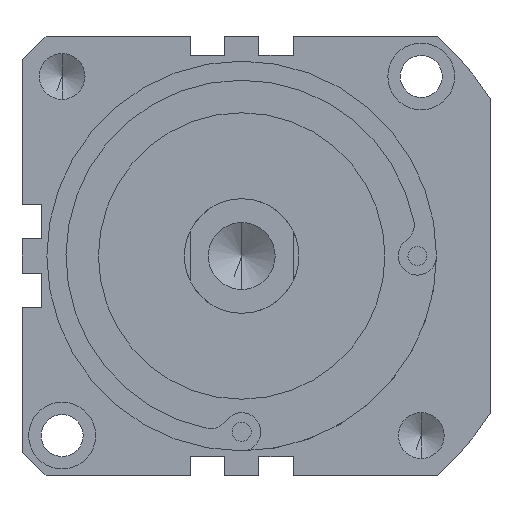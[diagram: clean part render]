
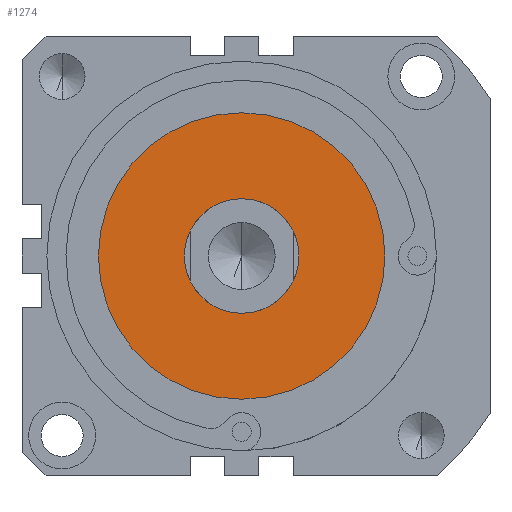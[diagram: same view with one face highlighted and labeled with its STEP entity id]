
A CAD part, front view. The second image highlights one B-rep face of the part: STEP entity #1274.
In plain terms, the highlighted planar face has unit normal (0, -1, 0).
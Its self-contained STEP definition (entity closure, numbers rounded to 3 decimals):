
#332 = ORIENTED_EDGE ( 'NONE', *, *, #3339, .F. ) ;
#406 = VERTEX_POINT ( 'NONE', #3737 ) ;
#497 = ORIENTED_EDGE ( 'NONE', *, *, #962, .F. ) ;
#507 = CARTESIAN_POINT ( 'NONE',  ( 0., -73., 0. ) ) ;
#513 = AXIS2_PLACEMENT_3D ( 'NONE', #2936, #2328, #2296 ) ;
#538 = VERTEX_POINT ( 'NONE', #899 ) ;
#859 = DIRECTION ( 'NONE',  ( 0., 1., 0. ) ) ;
#899 = CARTESIAN_POINT ( 'NONE',  ( 0., -73., 37.5 ) ) ;
#958 = PLANE ( 'NONE',  #2201 ) ;
#962 = EDGE_CURVE ( 'NONE', #406, #3886, #1987, .T. ) ;
#1073 = CIRCLE ( 'NONE', #1981, 37.5 ) ;
#1080 = ORIENTED_EDGE ( 'NONE', *, *, #2834, .F. ) ;
#1140 = AXIS2_PLACEMENT_3D ( 'NONE', #507, #3766, #2452 ) ;
#1155 = EDGE_LOOP ( 'NONE', ( #1080, #497 ) ) ;
#1177 = DIRECTION ( 'NONE',  ( 0., 0., 1. ) ) ;
#1274 = ADVANCED_FACE ( 'NONE', ( #2143, #2031 ), #958, .F. ) ;
#1624 = CARTESIAN_POINT ( 'NONE',  ( 0., -73., 0. ) ) ;
#1981 = AXIS2_PLACEMENT_3D ( 'NONE', #2583, #859, #3168 ) ;
#1987 = CIRCLE ( 'NONE', #1140, 15. ) ;
#1997 = DIRECTION ( 'NONE',  ( 0., 1., 0. ) ) ;
#2031 = FACE_BOUND ( 'NONE', #1155, .T. ) ;
#2050 = CARTESIAN_POINT ( 'NONE',  ( 0., -73., 15. ) ) ;
#2136 = VERTEX_POINT ( 'NONE', #4050 ) ;
#2143 = FACE_OUTER_BOUND ( 'NONE', #3105, .T. ) ;
#2180 = CARTESIAN_POINT ( 'NONE',  ( 0., -73., 0. ) ) ;
#2201 = AXIS2_PLACEMENT_3D ( 'NONE', #1624, #1997, #2662 ) ;
#2296 = DIRECTION ( 'NONE',  ( 0., 0., 1. ) ) ;
#2328 = DIRECTION ( 'NONE',  ( 0., 1., 0. ) ) ;
#2424 = CIRCLE ( 'NONE', #4095, 15. ) ;
#2452 = DIRECTION ( 'NONE',  ( 0., 0., 1. ) ) ;
#2583 = CARTESIAN_POINT ( 'NONE',  ( 0., -73., 0. ) ) ;
#2662 = DIRECTION ( 'NONE',  ( 0., 0., 1. ) ) ;
#2762 = ORIENTED_EDGE ( 'NONE', *, *, #4218, .F. ) ;
#2834 = EDGE_CURVE ( 'NONE', #3886, #406, #2424, .T. ) ;
#2936 = CARTESIAN_POINT ( 'NONE',  ( 0., -73., 0. ) ) ;
#3105 = EDGE_LOOP ( 'NONE', ( #332, #2762 ) ) ;
#3118 = DIRECTION ( 'NONE',  ( 0., -1., 0. ) ) ;
#3168 = DIRECTION ( 'NONE',  ( 0., 0., 1. ) ) ;
#3339 = EDGE_CURVE ( 'NONE', #2136, #538, #4215, .T. ) ;
#3737 = CARTESIAN_POINT ( 'NONE',  ( 0., -73., -15. ) ) ;
#3766 = DIRECTION ( 'NONE',  ( 0., -1., 0. ) ) ;
#3886 = VERTEX_POINT ( 'NONE', #2050 ) ;
#4050 = CARTESIAN_POINT ( 'NONE',  ( 0., -73., -37.5 ) ) ;
#4095 = AXIS2_PLACEMENT_3D ( 'NONE', #2180, #3118, #1177 ) ;
#4215 = CIRCLE ( 'NONE', #513, 37.5 ) ;
#4218 = EDGE_CURVE ( 'NONE', #538, #2136, #1073, .T. ) ;
